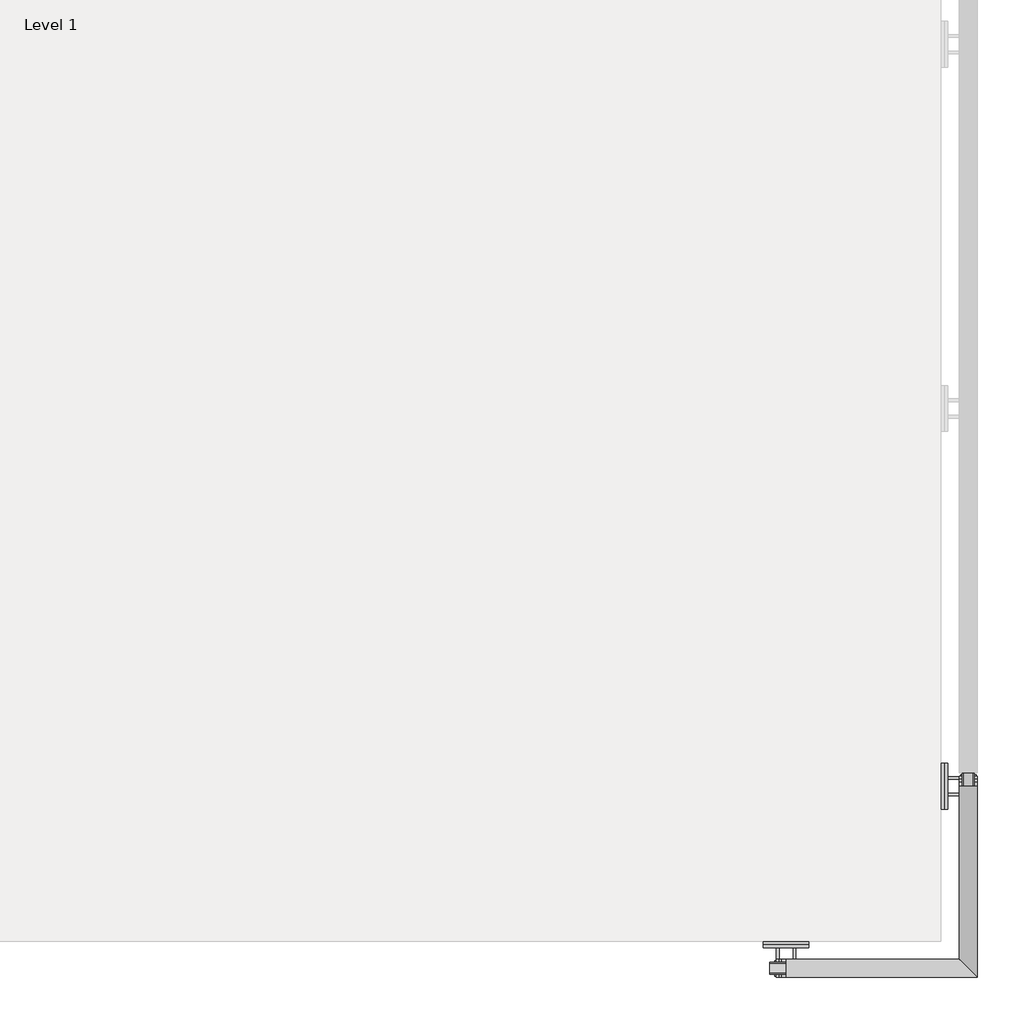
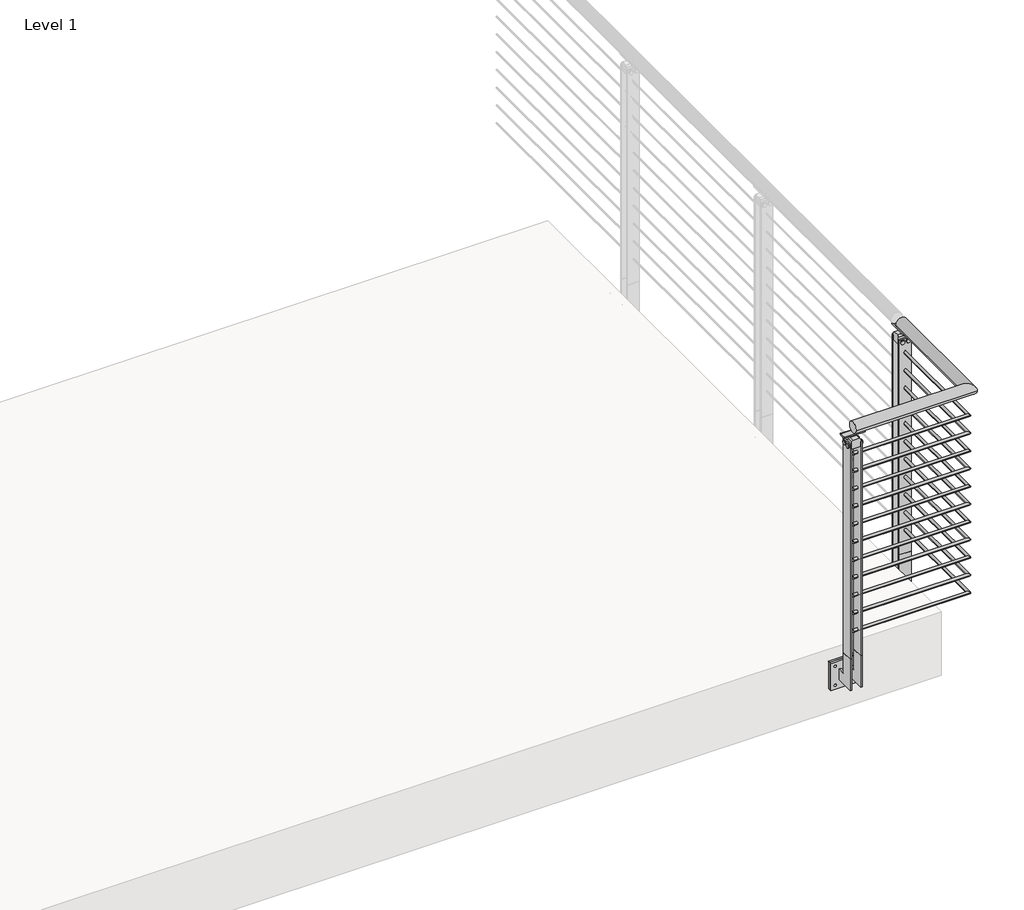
# One storey, part 5 of 36: 1 railing.
"""IFC4 building model written with IfcOpenShell, lengths in millimetres."""

from ifc_helpers import new_model, si_unit, point, frame, frame_2d, origin, origin_with_axes, place, context, project, spatial, polyline, circle_curve, ellipse_curve, trimmed, segment, composite_curve, outline, extrude, element, save
from ifc_brep_helpers import plane_surface, cylinder_surface, revolved_surface, advanced_brep

model = new_model("IFC4")

# Units and contexts
model_context = context("Model", 3, world=origin())
ifc_project = project(units=[si_unit("LENGTHUNIT", "METRE", prefix="MILLI")], contexts=[model_context])

# Site, building, storey
site = spatial("IfcSite", under=ifc_project)
building = spatial("IfcBuilding", under=site)
storey = spatial("IfcBuildingStorey", under=building, Name="Level 1", Elevation=0.0)

# Railing
placement = place(None, origin())
element("IfcRailing", 1, ObjectType="VIVA-BLADE-Cable-Fascia Mount-Corner", at=placement, inside=storey, context=model_context, shape_type="SolidModel", body=[
    advanced_brep(
    [(-5365.1880416, -57235.2334719, 1054.1), (-5365.1880416, -57286.0334719, 1054.1), (-4831.7880416, -57286.0334719, 1054.1), (-4882.5880416, -57235.2334719, 1054.1), (-4882.5880416, -56752.6334719, 1054.1), (-4831.7880416, -56752.6334719, 1054.1)],
    [
        (0, 1, circle_curve(frame((-5365.1880416, -57260.6334719, 1054.1), z_axis=(-1.0, 0.0, 0.0), x_axis=(0.0, -1.0, 0.0)), 25.4)),
        (1, 0, circle_curve(frame((-5365.1880416, -57260.6334719, 1054.1), z_axis=(-1.0, 0.0, 0.0), x_axis=(0.0, -1.0, 0.0)), 25.4)),
        (2, 3, ellipse_curve(frame((-4857.1880416, -57260.6334719, 1054.1), z_axis=(-0.7071067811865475, -0.7071067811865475, 0.0), x_axis=(0.7071067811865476, -0.7071067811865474, 0.0)), 35.9210245, 25.4)),
        (3, 0),
        (1, 2),
        (3, 2, ellipse_curve(frame((-4857.1880416, -57260.6334719, 1054.1), z_axis=(-0.7071067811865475, -0.7071067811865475, 0.0), x_axis=(0.7071067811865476, -0.7071067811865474, 0.0)), 35.9210245, 25.4)),
        (4, 5, circle_curve(frame((-4857.1880416, -56752.6334719, 1054.1), z_axis=(0.0, 1.0, 0.0), x_axis=(1.0, 0.0, 0.0)), 25.4)),
        (5, 4, circle_curve(frame((-4857.1880416, -56752.6334719, 1054.1), z_axis=(0.0, 1.0, 0.0), x_axis=(1.0, 0.0, 0.0)), 25.4)),
        (4, 3),
        (2, 5),
    ],
    [
        plane_surface(frame((-5365.1880416, -57260.6334719, 1079.5), z_axis=(-1.0, 0.0, 0.0), x_axis=(0.0, -1.0, 0.0))),
        cylinder_surface(frame((-4857.1880416, -57260.6334719, 1054.1), z_axis=(1.0, 0.0, 0.0), x_axis=(0.0, -1.0, 0.0)), 25.4),
        plane_surface(frame((-4857.1880416, -56752.6334719, 1079.5), z_axis=(0.0, 1.0, 0.0), x_axis=(0.0, 0.0, -1.0))),
        cylinder_surface(frame((-4857.1880416, -56752.6334719, 1054.1), z_axis=(0.0, 1.0, 0.0), x_axis=(1.0, 0.0, 0.0)), 25.4),
    ],
    [
        (0, [[1, 2]]),
        (1, [[3, 4, -2, 5]]),
        (1, [[6, -5, -1, -4]]),
        (2, [[7, 8]]),
        (3, [[-7, 9, -3, 10]]),
        (3, [[-8, -10, -6, -9]]),
    ],
),
    advanced_brep(
    [(-4863.5380416, -56752.6334719, 933.45), (-4850.8380416, -56752.6334719, 933.45), (-4850.8380416, -57266.9834719, 933.45), (-4863.5380416, -57254.2834719, 933.45), (-5365.1880416, -57254.2834719, 933.45), (-5365.1880416, -57266.9834719, 933.45)],
    [
        (0, 1, circle_curve(frame((-4857.1880416, -56752.6334719, 933.45), z_axis=(0.0, 1.0, 0.0), x_axis=(1.0, 0.0, 0.0)), 6.35)),
        (1, 0, circle_curve(frame((-4857.1880416, -56752.6334719, 933.45), z_axis=(0.0, 1.0, 0.0), x_axis=(1.0, 0.0, 0.0)), 6.35)),
        (1, 2),
        (2, 3, ellipse_curve(frame((-4857.1880416, -57260.6334719, 933.45), z_axis=(0.7071067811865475, 0.7071067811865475, 0.0), x_axis=(-0.7071067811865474, 0.7071067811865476, 0.0)), 8.9802561, 6.35)),
        (3, 0),
        (3, 2, ellipse_curve(frame((-4857.1880416, -57260.6334719, 933.45), z_axis=(0.7071067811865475, 0.7071067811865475, 0.0), x_axis=(-0.7071067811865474, 0.7071067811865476, 0.0)), 8.9802561, 6.35)),
        (4, 5, circle_curve(frame((-5365.1880416, -57260.6334719, 933.45), z_axis=(-1.0, 0.0, 0.0), x_axis=(0.0, -1.0, 0.0)), 6.35)),
        (5, 4, circle_curve(frame((-5365.1880416, -57260.6334719, 933.45), z_axis=(-1.0, 0.0, 0.0), x_axis=(0.0, -1.0, 0.0)), 6.35)),
        (2, 5),
        (4, 3),
    ],
    [
        plane_surface(frame((-4857.1880416, -56752.6334719, 939.8), z_axis=(0.0, 1.0, 0.0), x_axis=(0.0, 0.0, -1.0))),
        cylinder_surface(frame((-4857.1880416, -56752.6334719, 933.45), z_axis=(0.0, 1.0, 0.0), x_axis=(1.0, 0.0, 0.0)), 6.35),
        plane_surface(frame((-5365.1880416, -57260.6334719, 939.8), z_axis=(-1.0, 0.0, 0.0), x_axis=(0.0, -1.0, 0.0))),
        cylinder_surface(frame((-4857.1880416, -57260.6334719, 933.45), z_axis=(1.0, 0.0, 0.0), x_axis=(0.0, -1.0, 0.0)), 6.35),
    ],
    [
        (0, [[1, 2]]),
        (1, [[-2, 3, 4, 5]]),
        (1, [[-1, -5, 6, -3]]),
        (2, [[7, 8]]),
        (3, [[-4, 9, -7, 10]]),
        (3, [[-6, -10, -8, -9]]),
    ],
),
    advanced_brep(
    [(-4863.5380416, -56752.6334719, 850.9), (-4850.8380416, -56752.6334719, 850.9), (-4850.8380416, -57266.9834719, 850.9), (-4863.5380416, -57254.2834719, 850.9), (-5365.1880416, -57254.2834719, 850.9), (-5365.1880416, -57266.9834719, 850.9)],
    [
        (0, 1, circle_curve(frame((-4857.1880416, -56752.6334719, 850.9), z_axis=(0.0, 1.0, 0.0), x_axis=(1.0, 0.0, 0.0)), 6.35)),
        (1, 0, circle_curve(frame((-4857.1880416, -56752.6334719, 850.9), z_axis=(0.0, 1.0, 0.0), x_axis=(1.0, 0.0, 0.0)), 6.35)),
        (1, 2),
        (2, 3, ellipse_curve(frame((-4857.1880416, -57260.6334719, 850.9), z_axis=(0.7071067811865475, 0.7071067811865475, 0.0), x_axis=(-0.7071067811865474, 0.7071067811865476, 0.0)), 8.9802561, 6.35)),
        (3, 0),
        (3, 2, ellipse_curve(frame((-4857.1880416, -57260.6334719, 850.9), z_axis=(0.7071067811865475, 0.7071067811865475, 0.0), x_axis=(-0.7071067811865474, 0.7071067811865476, 0.0)), 8.9802561, 6.35)),
        (4, 5, circle_curve(frame((-5365.1880416, -57260.6334719, 850.9), z_axis=(-1.0, 0.0, 0.0), x_axis=(0.0, -1.0, 0.0)), 6.35)),
        (5, 4, circle_curve(frame((-5365.1880416, -57260.6334719, 850.9), z_axis=(-1.0, 0.0, 0.0), x_axis=(0.0, -1.0, 0.0)), 6.35)),
        (2, 5),
        (4, 3),
    ],
    [
        plane_surface(frame((-4857.1880416, -56752.6334719, 857.25), z_axis=(0.0, 1.0, 0.0), x_axis=(0.0, 0.0, -1.0))),
        cylinder_surface(frame((-4857.1880416, -56752.6334719, 850.9), z_axis=(0.0, 1.0, 0.0), x_axis=(1.0, 0.0, 0.0)), 6.35),
        plane_surface(frame((-5365.1880416, -57260.6334719, 857.25), z_axis=(-1.0, 0.0, 0.0), x_axis=(0.0, -1.0, 0.0))),
        cylinder_surface(frame((-4857.1880416, -57260.6334719, 850.9), z_axis=(1.0, 0.0, 0.0), x_axis=(0.0, -1.0, 0.0)), 6.35),
    ],
    [
        (0, [[1, 2]]),
        (1, [[-2, 3, 4, 5]]),
        (1, [[-1, -5, 6, -3]]),
        (2, [[7, 8]]),
        (3, [[-4, 9, -7, 10]]),
        (3, [[-6, -10, -8, -9]]),
    ],
),
    advanced_brep(
    [(-4863.5380416, -56752.6334719, 768.35), (-4850.8380416, -56752.6334719, 768.35), (-4850.8380416, -57266.9834719, 768.35), (-4863.5380416, -57254.2834719, 768.35), (-5365.1880416, -57254.2834719, 768.35), (-5365.1880416, -57266.9834719, 768.35)],
    [
        (0, 1, circle_curve(frame((-4857.1880416, -56752.6334719, 768.35), z_axis=(0.0, 1.0, 0.0), x_axis=(1.0, 0.0, 0.0)), 6.35)),
        (1, 0, circle_curve(frame((-4857.1880416, -56752.6334719, 768.35), z_axis=(0.0, 1.0, 0.0), x_axis=(1.0, 0.0, 0.0)), 6.35)),
        (1, 2),
        (2, 3, ellipse_curve(frame((-4857.1880416, -57260.6334719, 768.35), z_axis=(0.7071067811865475, 0.7071067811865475, 0.0), x_axis=(-0.7071067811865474, 0.7071067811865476, 0.0)), 8.9802561, 6.35)),
        (3, 0),
        (3, 2, ellipse_curve(frame((-4857.1880416, -57260.6334719, 768.35), z_axis=(0.7071067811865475, 0.7071067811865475, 0.0), x_axis=(-0.7071067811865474, 0.7071067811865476, 0.0)), 8.9802561, 6.35)),
        (4, 5, circle_curve(frame((-5365.1880416, -57260.6334719, 768.35), z_axis=(-1.0, 0.0, 0.0), x_axis=(0.0, -1.0, 0.0)), 6.35)),
        (5, 4, circle_curve(frame((-5365.1880416, -57260.6334719, 768.35), z_axis=(-1.0, 0.0, 0.0), x_axis=(0.0, -1.0, 0.0)), 6.35)),
        (2, 5),
        (4, 3),
    ],
    [
        plane_surface(frame((-4857.1880416, -56752.6334719, 774.7), z_axis=(0.0, 1.0, 0.0), x_axis=(0.0, 0.0, -1.0))),
        cylinder_surface(frame((-4857.1880416, -56752.6334719, 768.35), z_axis=(0.0, 1.0, 0.0), x_axis=(1.0, 0.0, 0.0)), 6.35),
        plane_surface(frame((-5365.1880416, -57260.6334719, 774.7), z_axis=(-1.0, 0.0, 0.0), x_axis=(0.0, -1.0, 0.0))),
        cylinder_surface(frame((-4857.1880416, -57260.6334719, 768.35), z_axis=(1.0, 0.0, 0.0), x_axis=(0.0, -1.0, 0.0)), 6.35),
    ],
    [
        (0, [[1, 2]]),
        (1, [[-2, 3, 4, 5]]),
        (1, [[-1, -5, 6, -3]]),
        (2, [[7, 8]]),
        (3, [[-4, 9, -7, 10]]),
        (3, [[-6, -10, -8, -9]]),
    ],
),
    advanced_brep(
    [(-4863.5380416, -56752.6334719, 685.8), (-4850.8380416, -56752.6334719, 685.8), (-4850.8380416, -57266.9834719, 685.8), (-4863.5380416, -57254.2834719, 685.8), (-5365.1880416, -57254.2834719, 685.8), (-5365.1880416, -57266.9834719, 685.8)],
    [
        (0, 1, circle_curve(frame((-4857.1880416, -56752.6334719, 685.8), z_axis=(0.0, 1.0, 0.0), x_axis=(1.0, 0.0, 0.0)), 6.35)),
        (1, 0, circle_curve(frame((-4857.1880416, -56752.6334719, 685.8), z_axis=(0.0, 1.0, 0.0), x_axis=(1.0, 0.0, 0.0)), 6.35)),
        (1, 2),
        (2, 3, ellipse_curve(frame((-4857.1880416, -57260.6334719, 685.8), z_axis=(0.7071067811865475, 0.7071067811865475, 0.0), x_axis=(-0.7071067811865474, 0.7071067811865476, 0.0)), 8.9802561, 6.35)),
        (3, 0),
        (3, 2, ellipse_curve(frame((-4857.1880416, -57260.6334719, 685.8), z_axis=(0.7071067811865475, 0.7071067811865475, 0.0), x_axis=(-0.7071067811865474, 0.7071067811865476, 0.0)), 8.9802561, 6.35)),
        (4, 5, circle_curve(frame((-5365.1880416, -57260.6334719, 685.8), z_axis=(-1.0, 0.0, 0.0), x_axis=(0.0, -1.0, 0.0)), 6.35)),
        (5, 4, circle_curve(frame((-5365.1880416, -57260.6334719, 685.8), z_axis=(-1.0, 0.0, 0.0), x_axis=(0.0, -1.0, 0.0)), 6.35)),
        (2, 5),
        (4, 3),
    ],
    [
        plane_surface(frame((-4857.1880416, -56752.6334719, 692.15), z_axis=(0.0, 1.0, 0.0), x_axis=(0.0, 0.0, -1.0))),
        cylinder_surface(frame((-4857.1880416, -56752.6334719, 685.8), z_axis=(0.0, 1.0, 0.0), x_axis=(1.0, 0.0, 0.0)), 6.35),
        plane_surface(frame((-5365.1880416, -57260.6334719, 692.15), z_axis=(-1.0, 0.0, 0.0), x_axis=(0.0, -1.0, 0.0))),
        cylinder_surface(frame((-4857.1880416, -57260.6334719, 685.8), z_axis=(1.0, 0.0, 0.0), x_axis=(0.0, -1.0, 0.0)), 6.35),
    ],
    [
        (0, [[1, 2]]),
        (1, [[-2, 3, 4, 5]]),
        (1, [[-1, -5, 6, -3]]),
        (2, [[7, 8]]),
        (3, [[-4, 9, -7, 10]]),
        (3, [[-6, -10, -8, -9]]),
    ],
),
    advanced_brep(
    [(-4863.5380416, -56752.6334719, 603.25), (-4850.8380416, -56752.6334719, 603.25), (-4850.8380416, -57266.9834719, 603.25), (-4863.5380416, -57254.2834719, 603.25), (-5365.1880416, -57254.2834719, 603.25), (-5365.1880416, -57266.9834719, 603.25)],
    [
        (0, 1, circle_curve(frame((-4857.1880416, -56752.6334719, 603.25), z_axis=(0.0, 1.0, 0.0), x_axis=(1.0, 0.0, 0.0)), 6.35)),
        (1, 0, circle_curve(frame((-4857.1880416, -56752.6334719, 603.25), z_axis=(0.0, 1.0, 0.0), x_axis=(1.0, 0.0, 0.0)), 6.35)),
        (1, 2),
        (2, 3, ellipse_curve(frame((-4857.1880416, -57260.6334719, 603.25), z_axis=(0.7071067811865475, 0.7071067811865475, 0.0), x_axis=(-0.7071067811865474, 0.7071067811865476, 0.0)), 8.9802561, 6.35)),
        (3, 0),
        (3, 2, ellipse_curve(frame((-4857.1880416, -57260.6334719, 603.25), z_axis=(0.7071067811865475, 0.7071067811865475, 0.0), x_axis=(-0.7071067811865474, 0.7071067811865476, 0.0)), 8.9802561, 6.35)),
        (4, 5, circle_curve(frame((-5365.1880416, -57260.6334719, 603.25), z_axis=(-1.0, 0.0, 0.0), x_axis=(0.0, -1.0, 0.0)), 6.35)),
        (5, 4, circle_curve(frame((-5365.1880416, -57260.6334719, 603.25), z_axis=(-1.0, 0.0, 0.0), x_axis=(0.0, -1.0, 0.0)), 6.35)),
        (2, 5),
        (4, 3),
    ],
    [
        plane_surface(frame((-4857.1880416, -56752.6334719, 609.6), z_axis=(0.0, 1.0, 0.0), x_axis=(0.0, 0.0, -1.0))),
        cylinder_surface(frame((-4857.1880416, -56752.6334719, 603.25), z_axis=(0.0, 1.0, 0.0), x_axis=(1.0, 0.0, 0.0)), 6.35),
        plane_surface(frame((-5365.1880416, -57260.6334719, 609.6), z_axis=(-1.0, 0.0, 0.0), x_axis=(0.0, -1.0, 0.0))),
        cylinder_surface(frame((-4857.1880416, -57260.6334719, 603.25), z_axis=(1.0, 0.0, 0.0), x_axis=(0.0, -1.0, 0.0)), 6.35),
    ],
    [
        (0, [[1, 2]]),
        (1, [[-2, 3, 4, 5]]),
        (1, [[-1, -5, 6, -3]]),
        (2, [[7, 8]]),
        (3, [[-4, 9, -7, 10]]),
        (3, [[-6, -10, -8, -9]]),
    ],
),
    advanced_brep(
    [(-4863.5380416, -56752.6334719, 520.7), (-4850.8380416, -56752.6334719, 520.7), (-4850.8380416, -57266.9834719, 520.7), (-4863.5380416, -57254.2834719, 520.7), (-5365.1880416, -57254.2834719, 520.7), (-5365.1880416, -57266.9834719, 520.7)],
    [
        (0, 1, circle_curve(frame((-4857.1880416, -56752.6334719, 520.7), z_axis=(0.0, 1.0, 0.0), x_axis=(1.0, 0.0, 0.0)), 6.35)),
        (1, 0, circle_curve(frame((-4857.1880416, -56752.6334719, 520.7), z_axis=(0.0, 1.0, 0.0), x_axis=(1.0, 0.0, 0.0)), 6.35)),
        (1, 2),
        (2, 3, ellipse_curve(frame((-4857.1880416, -57260.6334719, 520.7), z_axis=(0.7071067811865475, 0.7071067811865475, 0.0), x_axis=(-0.7071067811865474, 0.7071067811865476, 0.0)), 8.9802561, 6.35)),
        (3, 0),
        (3, 2, ellipse_curve(frame((-4857.1880416, -57260.6334719, 520.7), z_axis=(0.7071067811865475, 0.7071067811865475, 0.0), x_axis=(-0.7071067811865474, 0.7071067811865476, 0.0)), 8.9802561, 6.35)),
        (4, 5, circle_curve(frame((-5365.1880416, -57260.6334719, 520.7), z_axis=(-1.0, 0.0, 0.0), x_axis=(0.0, -1.0, 0.0)), 6.35)),
        (5, 4, circle_curve(frame((-5365.1880416, -57260.6334719, 520.7), z_axis=(-1.0, 0.0, 0.0), x_axis=(0.0, -1.0, 0.0)), 6.35)),
        (2, 5),
        (4, 3),
    ],
    [
        plane_surface(frame((-4857.1880416, -56752.6334719, 527.05), z_axis=(0.0, 1.0, 0.0), x_axis=(0.0, 0.0, -1.0))),
        cylinder_surface(frame((-4857.1880416, -56752.6334719, 520.7), z_axis=(0.0, 1.0, 0.0), x_axis=(1.0, 0.0, 0.0)), 6.35),
        plane_surface(frame((-5365.1880416, -57260.6334719, 527.05), z_axis=(-1.0, 0.0, 0.0), x_axis=(0.0, -1.0, 0.0))),
        cylinder_surface(frame((-4857.1880416, -57260.6334719, 520.7), z_axis=(1.0, 0.0, 0.0), x_axis=(0.0, -1.0, 0.0)), 6.35),
    ],
    [
        (0, [[1, 2]]),
        (1, [[-2, 3, 4, 5]]),
        (1, [[-1, -5, 6, -3]]),
        (2, [[7, 8]]),
        (3, [[-4, 9, -7, 10]]),
        (3, [[-6, -10, -8, -9]]),
    ],
),
    advanced_brep(
    [(-4863.5380416, -56752.6334719, 438.15), (-4850.8380416, -56752.6334719, 438.15), (-4850.8380416, -57266.9834719, 438.15), (-4863.5380416, -57254.2834719, 438.15), (-5365.1880416, -57254.2834719, 438.15), (-5365.1880416, -57266.9834719, 438.15)],
    [
        (0, 1, circle_curve(frame((-4857.1880416, -56752.6334719, 438.15), z_axis=(0.0, 1.0, 0.0), x_axis=(1.0, 0.0, 0.0)), 6.35)),
        (1, 0, circle_curve(frame((-4857.1880416, -56752.6334719, 438.15), z_axis=(0.0, 1.0, 0.0), x_axis=(1.0, 0.0, 0.0)), 6.35)),
        (1, 2),
        (2, 3, ellipse_curve(frame((-4857.1880416, -57260.6334719, 438.15), z_axis=(0.7071067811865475, 0.7071067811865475, 0.0), x_axis=(-0.7071067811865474, 0.7071067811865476, 0.0)), 8.9802561, 6.35)),
        (3, 0),
        (3, 2, ellipse_curve(frame((-4857.1880416, -57260.6334719, 438.15), z_axis=(0.7071067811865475, 0.7071067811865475, 0.0), x_axis=(-0.7071067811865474, 0.7071067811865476, 0.0)), 8.9802561, 6.35)),
        (4, 5, circle_curve(frame((-5365.1880416, -57260.6334719, 438.15), z_axis=(-1.0, 0.0, 0.0), x_axis=(0.0, -1.0, 0.0)), 6.35)),
        (5, 4, circle_curve(frame((-5365.1880416, -57260.6334719, 438.15), z_axis=(-1.0, 0.0, 0.0), x_axis=(0.0, -1.0, 0.0)), 6.35)),
        (2, 5),
        (4, 3),
    ],
    [
        plane_surface(frame((-4857.1880416, -56752.6334719, 444.5), z_axis=(0.0, 1.0, 0.0), x_axis=(0.0, 0.0, -1.0))),
        cylinder_surface(frame((-4857.1880416, -56752.6334719, 438.15), z_axis=(0.0, 1.0, 0.0), x_axis=(1.0, 0.0, 0.0)), 6.35),
        plane_surface(frame((-5365.1880416, -57260.6334719, 444.5), z_axis=(-1.0, 0.0, 0.0), x_axis=(0.0, -1.0, 0.0))),
        cylinder_surface(frame((-4857.1880416, -57260.6334719, 438.15), z_axis=(1.0, 0.0, 0.0), x_axis=(0.0, -1.0, 0.0)), 6.35),
    ],
    [
        (0, [[1, 2]]),
        (1, [[-2, 3, 4, 5]]),
        (1, [[-1, -5, 6, -3]]),
        (2, [[7, 8]]),
        (3, [[-4, 9, -7, 10]]),
        (3, [[-6, -10, -8, -9]]),
    ],
),
    advanced_brep(
    [(-4863.5380416, -56752.6334719, 355.6), (-4850.8380416, -56752.6334719, 355.6), (-4850.8380416, -57266.9834719, 355.6), (-4863.5380416, -57254.2834719, 355.6), (-5365.1880416, -57254.2834719, 355.6), (-5365.1880416, -57266.9834719, 355.6)],
    [
        (0, 1, circle_curve(frame((-4857.1880416, -56752.6334719, 355.6), z_axis=(0.0, 1.0, 0.0), x_axis=(1.0, 0.0, 0.0)), 6.35)),
        (1, 0, circle_curve(frame((-4857.1880416, -56752.6334719, 355.6), z_axis=(0.0, 1.0, 0.0), x_axis=(1.0, 0.0, 0.0)), 6.35)),
        (1, 2),
        (2, 3, ellipse_curve(frame((-4857.1880416, -57260.6334719, 355.6), z_axis=(0.7071067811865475, 0.7071067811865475, 0.0), x_axis=(-0.7071067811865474, 0.7071067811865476, 0.0)), 8.9802561, 6.35)),
        (3, 0),
        (3, 2, ellipse_curve(frame((-4857.1880416, -57260.6334719, 355.6), z_axis=(0.7071067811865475, 0.7071067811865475, 0.0), x_axis=(-0.7071067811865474, 0.7071067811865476, 0.0)), 8.9802561, 6.35)),
        (4, 5, circle_curve(frame((-5365.1880416, -57260.6334719, 355.6), z_axis=(-1.0, 0.0, 0.0), x_axis=(0.0, -1.0, 0.0)), 6.35)),
        (5, 4, circle_curve(frame((-5365.1880416, -57260.6334719, 355.6), z_axis=(-1.0, 0.0, 0.0), x_axis=(0.0, -1.0, 0.0)), 6.35)),
        (2, 5),
        (4, 3),
    ],
    [
        plane_surface(frame((-4857.1880416, -56752.6334719, 361.95), z_axis=(0.0, 1.0, 0.0), x_axis=(0.0, 0.0, -1.0))),
        cylinder_surface(frame((-4857.1880416, -56752.6334719, 355.6), z_axis=(0.0, 1.0, 0.0), x_axis=(1.0, 0.0, 0.0)), 6.35),
        plane_surface(frame((-5365.1880416, -57260.6334719, 361.95), z_axis=(-1.0, 0.0, 0.0), x_axis=(0.0, -1.0, 0.0))),
        cylinder_surface(frame((-4857.1880416, -57260.6334719, 355.6), z_axis=(1.0, 0.0, 0.0), x_axis=(0.0, -1.0, 0.0)), 6.35),
    ],
    [
        (0, [[1, 2]]),
        (1, [[-2, 3, 4, 5]]),
        (1, [[-1, -5, 6, -3]]),
        (2, [[7, 8]]),
        (3, [[-4, 9, -7, 10]]),
        (3, [[-6, -10, -8, -9]]),
    ],
),
    advanced_brep(
    [(-4863.5380416, -56752.6334719, 273.05), (-4850.8380416, -56752.6334719, 273.05), (-4850.8380416, -57266.9834719, 273.05), (-4863.5380416, -57254.2834719, 273.05), (-5365.1880416, -57254.2834719, 273.05), (-5365.1880416, -57266.9834719, 273.05)],
    [
        (0, 1, circle_curve(frame((-4857.1880416, -56752.6334719, 273.05), z_axis=(0.0, 1.0, 0.0), x_axis=(1.0, 0.0, 0.0)), 6.35)),
        (1, 0, circle_curve(frame((-4857.1880416, -56752.6334719, 273.05), z_axis=(0.0, 1.0, 0.0), x_axis=(1.0, 0.0, 0.0)), 6.35)),
        (1, 2),
        (2, 3, ellipse_curve(frame((-4857.1880416, -57260.6334719, 273.05), z_axis=(0.7071067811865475, 0.7071067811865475, 0.0), x_axis=(-0.7071067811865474, 0.7071067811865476, 0.0)), 8.9802561, 6.35)),
        (3, 0),
        (3, 2, ellipse_curve(frame((-4857.1880416, -57260.6334719, 273.05), z_axis=(0.7071067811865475, 0.7071067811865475, 0.0), x_axis=(-0.7071067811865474, 0.7071067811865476, 0.0)), 8.9802561, 6.35)),
        (4, 5, circle_curve(frame((-5365.1880416, -57260.6334719, 273.05), z_axis=(-1.0, 0.0, 0.0), x_axis=(0.0, -1.0, 0.0)), 6.35)),
        (5, 4, circle_curve(frame((-5365.1880416, -57260.6334719, 273.05), z_axis=(-1.0, 0.0, 0.0), x_axis=(0.0, -1.0, 0.0)), 6.35)),
        (2, 5),
        (4, 3),
    ],
    [
        plane_surface(frame((-4857.1880416, -56752.6334719, 279.4), z_axis=(0.0, 1.0, 0.0), x_axis=(0.0, 0.0, -1.0))),
        cylinder_surface(frame((-4857.1880416, -56752.6334719, 273.05), z_axis=(0.0, 1.0, 0.0), x_axis=(1.0, 0.0, 0.0)), 6.35),
        plane_surface(frame((-5365.1880416, -57260.6334719, 279.4), z_axis=(-1.0, 0.0, 0.0), x_axis=(0.0, -1.0, 0.0))),
        cylinder_surface(frame((-4857.1880416, -57260.6334719, 273.05), z_axis=(1.0, 0.0, 0.0), x_axis=(0.0, -1.0, 0.0)), 6.35),
    ],
    [
        (0, [[1, 2]]),
        (1, [[-2, 3, 4, 5]]),
        (1, [[-1, -5, 6, -3]]),
        (2, [[7, 8]]),
        (3, [[-4, 9, -7, 10]]),
        (3, [[-6, -10, -8, -9]]),
    ],
),
    advanced_brep(
    [(-4863.5380416, -56752.6334719, 190.5), (-4850.8380416, -56752.6334719, 190.5), (-4850.8380416, -57266.9834719, 190.5), (-4863.5380416, -57254.2834719, 190.5), (-5365.1880416, -57254.2834719, 190.5), (-5365.1880416, -57266.9834719, 190.5)],
    [
        (0, 1, circle_curve(frame((-4857.1880416, -56752.6334719, 190.5), z_axis=(0.0, 1.0, 0.0), x_axis=(1.0, 0.0, 0.0)), 6.35)),
        (1, 0, circle_curve(frame((-4857.1880416, -56752.6334719, 190.5), z_axis=(0.0, 1.0, 0.0), x_axis=(1.0, 0.0, 0.0)), 6.35)),
        (1, 2),
        (2, 3, ellipse_curve(frame((-4857.1880416, -57260.6334719, 190.5), z_axis=(0.7071067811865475, 0.7071067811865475, 0.0), x_axis=(-0.7071067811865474, 0.7071067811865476, 0.0)), 8.9802561, 6.35)),
        (3, 0),
        (3, 2, ellipse_curve(frame((-4857.1880416, -57260.6334719, 190.5), z_axis=(0.7071067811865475, 0.7071067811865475, 0.0), x_axis=(-0.7071067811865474, 0.7071067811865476, 0.0)), 8.9802561, 6.35)),
        (4, 5, circle_curve(frame((-5365.1880416, -57260.6334719, 190.5), z_axis=(-1.0, 0.0, 0.0), x_axis=(0.0, -1.0, 0.0)), 6.35)),
        (5, 4, circle_curve(frame((-5365.1880416, -57260.6334719, 190.5), z_axis=(-1.0, 0.0, 0.0), x_axis=(0.0, -1.0, 0.0)), 6.35)),
        (2, 5),
        (4, 3),
    ],
    [
        plane_surface(frame((-4857.1880416, -56752.6334719, 196.85), z_axis=(0.0, 1.0, 0.0), x_axis=(0.0, 0.0, -1.0))),
        cylinder_surface(frame((-4857.1880416, -56752.6334719, 190.5), z_axis=(0.0, 1.0, 0.0), x_axis=(1.0, 0.0, 0.0)), 6.35),
        plane_surface(frame((-5365.1880416, -57260.6334719, 196.85), z_axis=(-1.0, 0.0, 0.0), x_axis=(0.0, -1.0, 0.0))),
        cylinder_surface(frame((-4857.1880416, -57260.6334719, 190.5), z_axis=(1.0, 0.0, 0.0), x_axis=(0.0, -1.0, 0.0)), 6.35),
    ],
    [
        (0, [[1, 2]]),
        (1, [[-2, 3, 4, 5]]),
        (1, [[-1, -5, 6, -3]]),
        (2, [[7, 8]]),
        (3, [[-4, 9, -7, 10]]),
        (3, [[-6, -10, -8, -9]]),
    ],
),
    advanced_brep(
    [(-4863.5380416, -56752.6334719, 107.95), (-4850.8380416, -56752.6334719, 107.95), (-4850.8380416, -57266.9834719, 107.95), (-4863.5380416, -57254.2834719, 107.95), (-5365.1880416, -57254.2834719, 107.95), (-5365.1880416, -57266.9834719, 107.95)],
    [
        (0, 1, circle_curve(frame((-4857.1880416, -56752.6334719, 107.95), z_axis=(0.0, 1.0, 0.0), x_axis=(1.0, 0.0, 0.0)), 6.35)),
        (1, 0, circle_curve(frame((-4857.1880416, -56752.6334719, 107.95), z_axis=(0.0, 1.0, 0.0), x_axis=(1.0, 0.0, 0.0)), 6.35)),
        (1, 2),
        (2, 3, ellipse_curve(frame((-4857.1880416, -57260.6334719, 107.95), z_axis=(0.7071067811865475, 0.7071067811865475, 0.0), x_axis=(-0.7071067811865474, 0.7071067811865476, 0.0)), 8.9802561, 6.35)),
        (3, 0),
        (3, 2, ellipse_curve(frame((-4857.1880416, -57260.6334719, 107.95), z_axis=(0.7071067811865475, 0.7071067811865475, 0.0), x_axis=(-0.7071067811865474, 0.7071067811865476, 0.0)), 8.9802561, 6.35)),
        (4, 5, circle_curve(frame((-5365.1880416, -57260.6334719, 107.95), z_axis=(-1.0, 0.0, 0.0), x_axis=(0.0, -1.0, 0.0)), 6.35)),
        (5, 4, circle_curve(frame((-5365.1880416, -57260.6334719, 107.95), z_axis=(-1.0, 0.0, 0.0), x_axis=(0.0, -1.0, 0.0)), 6.35)),
        (2, 5),
        (4, 3),
    ],
    [
        plane_surface(frame((-4857.1880416, -56752.6334719, 114.3), z_axis=(0.0, 1.0, 0.0), x_axis=(0.0, 0.0, -1.0))),
        cylinder_surface(frame((-4857.1880416, -56752.6334719, 107.95), z_axis=(0.0, 1.0, 0.0), x_axis=(1.0, 0.0, 0.0)), 6.35),
        plane_surface(frame((-5365.1880416, -57260.6334719, 114.3), z_axis=(-1.0, 0.0, 0.0), x_axis=(0.0, -1.0, 0.0))),
        cylinder_surface(frame((-4857.1880416, -57260.6334719, 107.95), z_axis=(1.0, 0.0, 0.0), x_axis=(0.0, -1.0, 0.0)), 6.35),
    ],
    [
        (0, [[1, 2]]),
        (1, [[-2, 3, 4, 5]]),
        (1, [[-1, -5, 6, -3]]),
        (2, [[7, 8]]),
        (3, [[-4, 9, -7, 10]]),
        (3, [[-6, -10, -8, -9]]),
    ],
),
    extrude(outline(polyline([(-57286.0359998, -146.05), (-57286.0359998, 0.0), (-57235.2359998, 0.0), (-57235.2359998, -95.25), (-57203.4832661, -95.25), (-57203.4832661, -146.05), (-57286.0359998, -146.05)])), frame((-5346.1380416, 0.0, 0.0), z_axis=(1.0, 0.0, 0.0), x_axis=(0.0, 1.0, 0.0)), (0.0, 0.0, 1.0), 8.0248357),
    extrude(outline(polyline([(-57235.2359998, 0.0), (-57235.2359998, -95.25), (-57203.4832661, -95.25), (-57203.4832661, -146.05), (-57286.0359998, -146.05), (-57286.0359998, 0.0), (-57235.2359998, 0.0)])), frame((-5392.2390036, 0.0, 0.0), z_axis=(1.0, 0.0, 0.0), x_axis=(0.0, 1.0, 0.0)), (0.0, 0.0, 1.0), 8.001),
    advanced_brep(
    [(-5410.4254416, -57247.8733482, 1032.0967655), (-5410.4254416, -57244.0374508, 1027.707533), (-5410.4254416, -57275.5543431, 1027.1267745), (-5410.4254416, -57272.7454127, 1031.9535285), (-5319.9506416, -57247.8733482, 1032.0967655), (-5319.9506416, -57272.8323849, 1032.0018447), (-5319.9506416, -57275.6681364, 1027.1893964), (-5319.9506416, -57244.0374508, 1027.707533)],
    [
        (0, 1, circle_curve(frame((-5410.4254416, -57246.3257905, 1029.5784521), z_axis=(-1.0, 0.0, 0.0), x_axis=(0.0, 1.0, 0.0)), 2.9558141)),
        (1, 2, circle_curve(frame((-5410.4254416, -57260.303688, 1054.9742164), z_axis=(-1.0, 0.0, 0.0), x_axis=(0.0, 1.0, 0.0)), 31.75)),
        (2, 3, circle_curve(frame((-5410.4254416, -57274.077038, 1029.4993599), z_axis=(-1.0, 0.0, 0.0), x_axis=(0.0, 1.0, 0.0)), 2.7949225)),
        (3, 0, circle_curve(frame((-5410.4254416, -57260.4371511, 1054.2115898), z_axis=(1.0, 0.0, 0.0), x_axis=(0.0, 1.0, 0.0)), 25.4345159)),
        (4, 5, circle_curve(frame((-5319.9506416, -57260.4371511, 1054.2115898), z_axis=(-1.0, 0.0, 0.0), x_axis=(0.0, 1.0, 0.0)), 25.4345159)),
        (5, 6, circle_curve(frame((-5319.9506416, -57274.077038, 1029.4993599), z_axis=(1.0, 0.0, 0.0), x_axis=(0.0, 1.0, 0.0)), 2.7949225)),
        (6, 7, circle_curve(frame((-5319.9506416, -57260.303688, 1054.9742164), z_axis=(1.0, 0.0, 0.0), x_axis=(0.0, 1.0, 0.0)), 31.75)),
        (7, 4, circle_curve(frame((-5319.9506416, -57246.3257905, 1029.5784521), z_axis=(1.0, 0.0, 0.0), x_axis=(0.0, 1.0, 0.0)), 2.9558141)),
        (3, 5),
        (4, 0),
        (2, 6),
        (1, 7),
    ],
    [
        plane_surface(frame((-5410.4254416, -57235.0026353, 1054.2115898), z_axis=(-1.0, 0.0, 0.0), x_axis=(0.0, 0.0, -1.0))),
        plane_surface(frame((-5319.9506416, -57235.0026353, 1054.2115898), z_axis=(1.0, 0.0, 0.0), x_axis=(0.0, 0.0, 1.0))),
        revolved_surface(polyline([(-5319.9506416, -57235.0026352, 1054.2115898), (-5410.4254416, -57235.0026352, 1054.2115898)]), (-5319.9506416, -57260.4371511, 1054.2115898), (1.0, 0.0, 0.0)),
        cylinder_surface(frame((-5319.9506416, -57274.077038, 1029.4993599), z_axis=(-1.0, 0.0, 0.0), x_axis=(0.0, 1.0, 0.0)), 2.7949225),
        cylinder_surface(frame((-5319.9506416, -57260.303688, 1054.9742164), z_axis=(-1.0, 0.0, 0.0), x_axis=(0.0, 1.0, 0.0)), 31.75),
        cylinder_surface(frame((-5319.9506416, -57246.3257905, 1029.5784521), z_axis=(-1.0, 0.0, 0.0), x_axis=(0.0, 1.0, 0.0)), 2.9558141),
    ],
    [
        (0, [[1, 2, 3, 4]]),
        (1, [[5, 6, 7, 8]]),
        (2, [[9, -5, 10, -4]]),
        (3, [[11, -6, -9, -3]]),
        (4, [[12, -7, -11, -2]]),
        (5, [[-10, -8, -12, -1]]),
    ],
),
    extrude(outline(polyline([(-5428.6761048, -57184.4332661), (-5301.6761048, -57184.4332661), (-5301.6761048, -57193.9582661), (-5428.6761048, -57193.9582661), (-5428.6761048, -57184.4332661)])), frame((0.0, 0.0, -184.15), z_axis=(0.0, 0.0, 1.0), x_axis=(1.0, 0.0, 0.0)), (0.0, 0.0, 1.0), 127.0),
    advanced_brep(
    [(-5377.8880416, -57258.0934719, 1014.4125), (-5392.2559565, -57258.0934719, 1028.7804149), (-5338.1201268, -57258.0934719, 1028.7804149), (-5352.4880416, -57258.0934719, 1014.4125), (-5377.8880416, -57263.1734719, 1014.4125), (-5352.4880416, -57263.1734719, 1014.4125), (-5338.1201268, -57263.1734719, 1028.7804149), (-5392.2559565, -57263.1734719, 1028.7804149)],
    [
        (0, 1, circle_curve(frame((-5392.2559565, -57258.0934719, 1014.4125), z_axis=(0.0, -1.0, 0.0), x_axis=(1.0, 0.0, 0.0)), 14.3679149)),
        (1, 2),
        (2, 3, circle_curve(frame((-5338.1201268, -57258.0934719, 1014.4125), z_axis=(0.0, -1.0, 0.0), x_axis=(1.0, 0.0, 0.0)), 14.3679149)),
        (3, 0),
        (4, 5),
        (5, 6, circle_curve(frame((-5338.1201268, -57263.1734719, 1014.4125), z_axis=(0.0, 1.0, 0.0), x_axis=(1.0, 0.0, 0.0)), 14.3679149)),
        (6, 7),
        (7, 4, circle_curve(frame((-5392.2559565, -57263.1734719, 1014.4125), z_axis=(0.0, 1.0, 0.0), x_axis=(1.0, 0.0, 0.0)), 14.3679149)),
        (3, 5),
        (4, 0),
        (2, 6),
        (1, 7),
    ],
    [
        plane_surface(frame((-5352.4880416, -57258.0934719, 1014.4125), z_axis=(0.0, 1.0, 0.0), x_axis=(1.0, 0.0, 0.0))),
        plane_surface(frame((-5352.4880416, -57263.1734719, 1014.4125), z_axis=(0.0, -1.0, 0.0), x_axis=(-1.0, 0.0, 0.0))),
        plane_surface(frame((-5377.8880416, -57258.0934719, 1014.4125), z_axis=(0.0, 0.0, -1.0), x_axis=(0.0, -1.0, 0.0))),
        revolved_surface(polyline([(-5323.7522119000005, -57263.1734719, 1014.4125), (-5323.7522119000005, -57258.0934719, 1014.4125)]), (-5338.1201268, -57263.1734719, 1014.4125), (0.0, -1.0, 0.0)),
        plane_surface(frame((-5338.1201268, -57258.0934719, 1028.7804149), z_axis=(0.0, 0.0, 1.0), x_axis=(0.0, -1.0, 0.0))),
        revolved_surface(polyline([(-5377.8880416, -57263.1734719, 1014.4125), (-5377.8880416, -57258.0934719, 1014.4125)]), (-5392.2559565, -57263.1734719, 1014.4125), (0.0, -1.0, 0.0)),
    ],
    [
        (0, [[1, 2, 3, 4]]),
        (1, [[5, 6, 7, 8]]),
        (2, [[9, -5, 10, -4]]),
        (3, [[11, -6, -9, -3]]),
        (4, [[12, -7, -11, -2]]),
        (5, [[-10, -8, -12, -1]]),
    ],
),
    extrude(outline(polyline([(-5338.1132059, -57235.2336752), (-5338.1132059, -57286.0359998), (-5346.1380416, -57286.0359998), (-5346.1380416, -57235.2336752), (-5338.1132059, -57235.2336752)])), origin_with_axes(), (0.0, 0.0, 1.0), 996.95),
    extrude(outline(polyline([(-184.15, -5301.6761048), (-57.15, -5301.6761048), (-57.15, -5428.6761048), (-184.15, -5428.6761048), (-184.15, -5301.6761048)]), holes=[composite_curve([segment(trimmed(circle_curve(frame_2d((-76.2, -5320.7261048)), 4.7068371), [point((-76.2, -5325.4329419))], [point((-76.2, -5316.0192677))], True, "CARTESIAN"), True, "CONTINUOUS"), segment(trimmed(circle_curve(frame_2d((-76.2, -5320.7261048)), 4.7068371), [point((-76.2, -5316.0192677))], [point((-76.2, -5325.4329419))], True, "CARTESIAN"), True, "CONTINUOUS")], self_intersect=False), composite_curve([segment(trimmed(circle_curve(frame_2d((-76.2, -5409.6261048)), 4.7068371), [point((-76.2, -5414.3329419))], [point((-76.2, -5404.9192677))], True, "CARTESIAN"), True, "CONTINUOUS"), segment(trimmed(circle_curve(frame_2d((-76.2, -5409.6261048)), 4.7068371), [point((-76.2, -5404.9192677))], [point((-76.2, -5414.3329419))], True, "CARTESIAN"), True, "CONTINUOUS")], self_intersect=False), composite_curve([segment(trimmed(circle_curve(frame_2d((-165.1, -5409.6261048)), 4.7068371), [point((-165.1, -5414.3329419))], [point((-165.1, -5404.9192677))], True, "CARTESIAN"), True, "CONTINUOUS"), segment(trimmed(circle_curve(frame_2d((-165.1, -5409.6261048)), 4.7068371), [point((-165.1, -5404.9192677))], [point((-165.1, -5414.3329419))], True, "CARTESIAN"), True, "CONTINUOUS")], self_intersect=False), composite_curve([segment(trimmed(circle_curve(frame_2d((-165.1, -5320.7261048)), 4.7068371), [point((-165.1, -5325.4329419))], [point((-165.1, -5316.0192677))], True, "CARTESIAN"), True, "CONTINUOUS"), segment(trimmed(circle_curve(frame_2d((-165.1, -5320.7261048)), 4.7068371), [point((-165.1, -5316.0192677))], [point((-165.1, -5325.4329419))], True, "CARTESIAN"), True, "CONTINUOUS")], self_intersect=False)]), frame((0.0, -57203.4832661, 0.0), z_axis=(0.0, 1.0, 0.0), x_axis=(0.0, 0.0, 1.0)), (0.0, 0.0, 1.0), 9.525),
    extrude(outline(composite_curve([segment(trimmed(circle_curve(frame_2d((-57273.3359488, 986.0416929)), 8.89), [point((-57282.2259488, 986.0416929))], [point((-57264.4459488, 986.0416929))], False, "CARTESIAN"), True, "CONTINUOUS"), segment(trimmed(circle_curve(frame_2d((-57273.3359488, 986.0416929)), 8.89), [point((-57264.4459488, 986.0416929))], [point((-57282.2259488, 986.0416929))], False, "CARTESIAN"), True, "CONTINUOUS")], self_intersect=False)), frame((-5396.9261048, 0.0, 0.0), z_axis=(1.0, 0.0, 0.0), x_axis=(0.0, 1.0, 0.0)), (0.0, 0.0, 1.0), 63.4880631),
    extrude(outline(composite_curve([segment(trimmed(circle_curve(frame_2d((-57247.9360508, 986.0416929)), 8.89), [point((-57256.8260508, 986.0416929))], [point((-57239.0460508, 986.0416929))], False, "CARTESIAN"), True, "CONTINUOUS"), segment(trimmed(circle_curve(frame_2d((-57247.9360508, 986.0416929)), 8.89), [point((-57239.0460508, 986.0416929))], [point((-57256.8260508, 986.0416929))], False, "CARTESIAN"), True, "CONTINUOUS")], self_intersect=False)), frame((-5396.9261048, 0.0, 0.0), z_axis=(1.0, 0.0, 0.0), x_axis=(0.0, 1.0, 0.0)), (0.0, 0.0, 1.0), 63.4880631),
    extrude(outline(polyline([(974.7123, -5346.1380416), (1008.0625, -5346.1380416), (1014.4125, -5352.4880416), (1014.4125, -5377.8880416), (1008.0625, -5384.2380416), (974.7123, -5384.2380416), (974.7123, -5346.1380416)])), frame((0.0, -57286.0359998, 0.0), z_axis=(0.0, 1.0, 0.0), x_axis=(0.0, 0.0, 1.0)), (0.0, 0.0, 1.0), 50.8025279),
    extrude(outline(polyline([(-5384.2380036, -57235.2336752), (-5384.2380036, -57286.0359998), (-5392.2390036, -57286.0359998), (-5392.2390036, -57235.2336752), (-5384.2380036, -57235.2336752)])), origin_with_axes(), (0.0, 0.0, 1.0), 996.95),
    extrude(outline(polyline([(-146.05, -4831.7855137), (0.0, -4831.7855137), (0.0, -4882.5855137), (-95.25, -4882.5855137), (-95.25, -4914.3382474), (-146.05, -4914.3382474), (-146.05, -4831.7855137)])), frame((0.0, -56733.5834719, 0.0), z_axis=(0.0, 1.0, 0.0), x_axis=(0.0, 0.0, 1.0)), (0.0, 0.0, 1.0), 8.0248357),
    extrude(outline(polyline([(0.0, -4882.5855137), (-95.25, -4882.5855137), (-95.25, -4914.3382474), (-146.05, -4914.3382474), (-146.05, -4831.7855137), (0.0, -4831.7855137), (0.0, -4882.5855137)])), frame((0.0, -56779.6844338, 0.0), z_axis=(0.0, 1.0, 0.0), x_axis=(0.0, 0.0, 1.0)), (0.0, 0.0, 1.0), 8.001),
    advanced_brep(
    [(-4869.9481653, -56797.8708719, 1032.0967655), (-4873.7840627, -56797.8708719, 1027.707533), (-4842.2671704, -56797.8708719, 1027.1267745), (-4845.0761007, -56797.8708719, 1031.9535285), (-4869.9481653, -56707.3960719, 1032.0967655), (-4844.9891286, -56707.3960719, 1032.0018447), (-4842.153377, -56707.3960719, 1027.1893964), (-4873.7840627, -56707.3960719, 1027.707533)],
    [
        (0, 1, circle_curve(frame((-4871.4957229, -56797.8708719, 1029.5784521), z_axis=(0.0, -1.0, 0.0), x_axis=(-1.0, 0.0, 0.0)), 2.9558141)),
        (1, 2, circle_curve(frame((-4857.5178255, -56797.8708719, 1054.9742164), z_axis=(0.0, -1.0, 0.0), x_axis=(-1.0, 0.0, 0.0)), 31.75)),
        (2, 3, circle_curve(frame((-4843.7444755, -56797.8708719, 1029.4993599), z_axis=(0.0, -1.0, 0.0), x_axis=(-1.0, 0.0, 0.0)), 2.7949225)),
        (3, 0, circle_curve(frame((-4857.3843624, -56797.8708719, 1054.2115898), z_axis=(0.0, 1.0, 0.0), x_axis=(-1.0, 0.0, 0.0)), 25.4345159)),
        (4, 5, circle_curve(frame((-4857.3843624, -56707.3960719, 1054.2115898), z_axis=(0.0, -1.0, 0.0), x_axis=(-1.0, 0.0, 0.0)), 25.4345159)),
        (5, 6, circle_curve(frame((-4843.7444755, -56707.3960719, 1029.4993599), z_axis=(0.0, 1.0, 0.0), x_axis=(-1.0, 0.0, 0.0)), 2.7949225)),
        (6, 7, circle_curve(frame((-4857.5178255, -56707.3960719, 1054.9742164), z_axis=(0.0, 1.0, 0.0), x_axis=(-1.0, 0.0, 0.0)), 31.75)),
        (7, 4, circle_curve(frame((-4871.4957229, -56707.3960719, 1029.5784521), z_axis=(0.0, 1.0, 0.0), x_axis=(-1.0, 0.0, 0.0)), 2.9558141)),
        (3, 5),
        (4, 0),
        (2, 6),
        (1, 7),
    ],
    [
        plane_surface(frame((-4882.8188782, -56797.8708719, 1054.2115898), z_axis=(0.0, -1.0, 0.0), x_axis=(0.0, 0.0, -1.0))),
        plane_surface(frame((-4882.8188782, -56707.3960719, 1054.2115898), z_axis=(0.0, 1.0, 0.0), x_axis=(0.0, 0.0, 1.0))),
        revolved_surface(polyline([(-4882.8188783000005, -56707.3960719, 1054.2115898), (-4882.8188783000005, -56797.8708719, 1054.2115898)]), (-4857.3843624, -56707.3960719, 1054.2115898), (0.0, 1.0, 0.0)),
        cylinder_surface(frame((-4843.7444755, -56707.3960719, 1029.4993599), z_axis=(0.0, -1.0, 0.0), x_axis=(-1.0, 0.0, 0.0)), 2.7949225),
        cylinder_surface(frame((-4857.5178255, -56707.3960719, 1054.9742164), z_axis=(0.0, -1.0, 0.0), x_axis=(-1.0, 0.0, 0.0)), 31.75),
        cylinder_surface(frame((-4871.4957229, -56707.3960719, 1029.5784521), z_axis=(0.0, -1.0, 0.0), x_axis=(-1.0, 0.0, 0.0)), 2.9558141),
    ],
    [
        (0, [[1, 2, 3, 4]]),
        (1, [[5, 6, 7, 8]]),
        (2, [[9, -5, 10, -4]]),
        (3, [[11, -6, -9, -3]]),
        (4, [[12, -7, -11, -2]]),
        (5, [[-10, -8, -12, -1]]),
    ],
),
    extrude(outline(polyline([(-4933.3882474, -56816.121535), (-4933.3882474, -56689.121535), (-4923.8632474, -56689.121535), (-4923.8632474, -56816.121535), (-4933.3882474, -56816.121535)])), frame((0.0, 0.0, -184.15), z_axis=(0.0, 0.0, 1.0), x_axis=(1.0, 0.0, 0.0)), (0.0, 0.0, 1.0), 127.0),
    advanced_brep(
    [(-4859.7280416, -56765.3334719, 1014.4125), (-4859.7280416, -56779.7013867, 1028.7804149), (-4859.7280416, -56725.565557, 1028.7804149), (-4859.7280416, -56739.9334719, 1014.4125), (-4854.6480416, -56765.3334719, 1014.4125), (-4854.6480416, -56739.9334719, 1014.4125), (-4854.6480416, -56725.565557, 1028.7804149), (-4854.6480416, -56779.7013867, 1028.7804149)],
    [
        (0, 1, circle_curve(frame((-4859.7280416, -56779.7013867, 1014.4125), z_axis=(1.0, 0.0, 0.0), x_axis=(0.0, 1.0, 0.0)), 14.3679149)),
        (1, 2),
        (2, 3, circle_curve(frame((-4859.7280416, -56725.565557, 1014.4125), z_axis=(1.0, 0.0, 0.0), x_axis=(0.0, 1.0, 0.0)), 14.3679149)),
        (3, 0),
        (4, 5),
        (5, 6, circle_curve(frame((-4854.6480416, -56725.565557, 1014.4125), z_axis=(-1.0, 0.0, 0.0), x_axis=(0.0, 1.0, 0.0)), 14.3679149)),
        (6, 7),
        (7, 4, circle_curve(frame((-4854.6480416, -56779.7013867, 1014.4125), z_axis=(-1.0, 0.0, 0.0), x_axis=(0.0, 1.0, 0.0)), 14.3679149)),
        (3, 5),
        (4, 0),
        (2, 6),
        (1, 7),
    ],
    [
        plane_surface(frame((-4859.7280416, -56739.9334719, 1014.4125), z_axis=(-1.0, 0.0, 0.0), x_axis=(0.0, 1.0, 0.0))),
        plane_surface(frame((-4854.6480416, -56739.9334719, 1014.4125), z_axis=(1.0, 0.0, 0.0), x_axis=(0.0, -1.0, 0.0))),
        plane_surface(frame((-4859.7280416, -56765.3334719, 1014.4125), z_axis=(0.0, 0.0, -1.0), x_axis=(1.0, 0.0, 0.0))),
        revolved_surface(polyline([(-4854.6480416, -56711.1976421, 1014.4125), (-4859.7280416, -56711.1976421, 1014.4125)]), (-4854.6480416, -56725.565557, 1014.4125), (1.0, 0.0, 0.0)),
        plane_surface(frame((-4859.7280416, -56725.565557, 1028.7804149), z_axis=(0.0, 0.0, 1.0), x_axis=(1.0, 0.0, 0.0))),
        revolved_surface(polyline([(-4854.6480416, -56765.3334718, 1014.4125), (-4859.7280416, -56765.3334718, 1014.4125)]), (-4854.6480416, -56779.7013867, 1014.4125), (1.0, 0.0, 0.0)),
    ],
    [
        (0, [[1, 2, 3, 4]]),
        (1, [[5, 6, 7, 8]]),
        (2, [[9, -5, 10, -4]]),
        (3, [[11, -6, -9, -3]]),
        (4, [[12, -7, -11, -2]]),
        (5, [[-10, -8, -12, -1]]),
    ],
),
    extrude(outline(polyline([(-4882.5878383, -56725.5586362), (-4831.7855137, -56725.5586362), (-4831.7855137, -56733.5834719), (-4882.5878383, -56733.5834719), (-4882.5878383, -56725.5586362)])), origin_with_axes(), (0.0, 0.0, 1.0), 996.95),
    extrude(outline(polyline([(-56689.121535, -184.15), (-56816.121535, -184.15), (-56816.121535, -57.15), (-56689.121535, -57.15), (-56689.121535, -184.15)]), holes=[composite_curve([segment(trimmed(circle_curve(frame_2d((-56708.171535, -76.2)), 4.7068371), [point((-56712.8783721, -76.2))], [point((-56703.4646979, -76.2))], True, "CARTESIAN"), True, "CONTINUOUS"), segment(trimmed(circle_curve(frame_2d((-56708.171535, -76.2)), 4.7068371), [point((-56703.4646979, -76.2))], [point((-56712.8783721, -76.2))], True, "CARTESIAN"), True, "CONTINUOUS")], self_intersect=False), composite_curve([segment(trimmed(circle_curve(frame_2d((-56797.071535, -76.2)), 4.7068371), [point((-56801.7783721, -76.2))], [point((-56792.3646979, -76.2))], True, "CARTESIAN"), True, "CONTINUOUS"), segment(trimmed(circle_curve(frame_2d((-56797.071535, -76.2)), 4.7068371), [point((-56792.3646979, -76.2))], [point((-56801.7783721, -76.2))], True, "CARTESIAN"), True, "CONTINUOUS")], self_intersect=False), composite_curve([segment(trimmed(circle_curve(frame_2d((-56797.071535, -165.1)), 4.7068371), [point((-56801.7783721, -165.1))], [point((-56792.3646979, -165.1))], True, "CARTESIAN"), True, "CONTINUOUS"), segment(trimmed(circle_curve(frame_2d((-56797.071535, -165.1)), 4.7068371), [point((-56792.3646979, -165.1))], [point((-56801.7783721, -165.1))], True, "CARTESIAN"), True, "CONTINUOUS")], self_intersect=False), composite_curve([segment(trimmed(circle_curve(frame_2d((-56708.171535, -165.1)), 4.7068371), [point((-56712.8783721, -165.1))], [point((-56703.4646979, -165.1))], True, "CARTESIAN"), True, "CONTINUOUS"), segment(trimmed(circle_curve(frame_2d((-56708.171535, -165.1)), 4.7068371), [point((-56703.4646979, -165.1))], [point((-56712.8783721, -165.1))], True, "CARTESIAN"), True, "CONTINUOUS")], self_intersect=False)]), frame((-4923.8632474, 0.0, 0.0), z_axis=(1.0, 0.0, 0.0), x_axis=(0.0, 1.0, 0.0)), (0.0, 0.0, 1.0), 9.525),
    extrude(outline(composite_curve([segment(trimmed(circle_curve(frame_2d((986.0416929, -4844.4855647)), 8.89), [point((986.0416929, -4835.5955647))], [point((986.0416929, -4853.3755647))], False, "CARTESIAN"), True, "CONTINUOUS"), segment(trimmed(circle_curve(frame_2d((986.0416929, -4844.4855647)), 8.89), [point((986.0416929, -4853.3755647))], [point((986.0416929, -4835.5955647))], False, "CARTESIAN"), True, "CONTINUOUS")], self_intersect=False)), frame((0.0, -56784.371535, 0.0), z_axis=(0.0, 1.0, 0.0), x_axis=(0.0, 0.0, 1.0)), (0.0, 0.0, 1.0), 63.4880631),
    extrude(outline(composite_curve([segment(trimmed(circle_curve(frame_2d((986.0416929, -4869.8854627)), 8.89), [point((986.0416929, -4860.9954627))], [point((986.0416929, -4878.7754627))], False, "CARTESIAN"), True, "CONTINUOUS"), segment(trimmed(circle_curve(frame_2d((986.0416929, -4869.8854627)), 8.89), [point((986.0416929, -4878.7754627))], [point((986.0416929, -4860.9954627))], False, "CARTESIAN"), True, "CONTINUOUS")], self_intersect=False)), frame((0.0, -56784.371535, 0.0), z_axis=(0.0, 1.0, 0.0), x_axis=(0.0, 0.0, 1.0)), (0.0, 0.0, 1.0), 63.4880631),
    extrude(outline(polyline([(-56733.5834719, 974.7123), (-56771.6834719, 974.7123), (-56771.6834719, 1008.0625), (-56765.3334719, 1014.4125), (-56739.9334719, 1014.4125), (-56733.5834719, 1008.0625), (-56733.5834719, 974.7123)])), frame((-4882.5880416, 0.0, 0.0), z_axis=(1.0, 0.0, 0.0), x_axis=(0.0, 1.0, 0.0)), (0.0, 0.0, 1.0), 50.8025279),
    extrude(outline(polyline([(-4882.5878383, -56771.6834338), (-4831.7855137, -56771.6834338), (-4831.7855137, -56779.6844338), (-4882.5878383, -56779.6844338), (-4882.5878383, -56771.6834338)])), origin_with_axes(), (0.0, 0.0, 1.0), 996.95),
])

save(model, "model.ifc")
